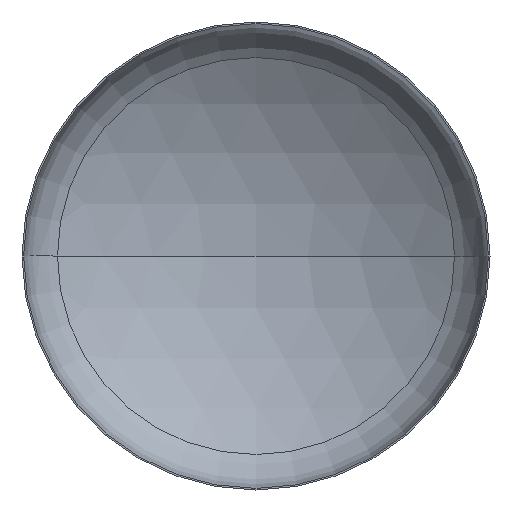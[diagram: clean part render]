
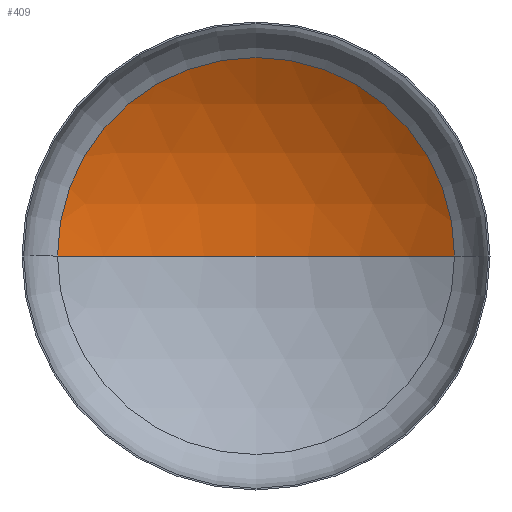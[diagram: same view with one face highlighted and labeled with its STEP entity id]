
A CAD part, front view. The second image highlights one B-rep face of the part: STEP entity #409.
In plain terms, the highlighted spherical face has radius 6000 mm.
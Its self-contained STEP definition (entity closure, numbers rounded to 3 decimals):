
#61 = ORIENTED_EDGE ( 'NONE', *, *, #150, .T. ) ;
#65 = VERTEX_POINT ( 'NONE', #273 ) ;
#71 = ORIENTED_EDGE ( 'NONE', *, *, #151, .T. ) ;
#87 = EDGE_LOOP ( 'NONE', ( #102, #71, #61 ) ) ;
#93 = VERTEX_POINT ( 'NONE', #236 ) ;
#95 = VERTEX_POINT ( 'NONE', #238 ) ;
#102 = ORIENTED_EDGE ( 'NONE', *, *, #152, .F. ) ;
#112 = AXIS2_PLACEMENT_3D ( 'NONE', #187, #188, #262 ) ;
#114 = AXIS2_PLACEMENT_3D ( 'NONE', #207, #203, #200 ) ;
#115 = AXIS2_PLACEMENT_3D ( 'NONE', #286, #285, #284 ) ;
#130 = CIRCLE ( 'NONE', #115, 3181.424 ) ;
#150 = EDGE_CURVE ( 'NONE', #93, #95, #130, .T. ) ;
#151 = EDGE_CURVE ( 'NONE', #65, #93, #386, .T. ) ;
#152 = EDGE_CURVE ( 'NONE', #65, #95, #268, .T. ) ;
#174 = AXIS2_PLACEMENT_3D ( 'NONE', #312, #269, #264 ) ;
#187 = CARTESIAN_POINT ( 'NONE',  ( 0., -4022.83, 0. ) ) ;
#188 = DIRECTION ( 'NONE',  ( 0., 0., 1. ) ) ;
#200 = DIRECTION ( 'NONE',  ( -1., 0., 0. ) ) ;
#203 = DIRECTION ( 'NONE',  ( 0., 0., -1. ) ) ;
#207 = CARTESIAN_POINT ( 'NONE',  ( 0., -4022.83, 0. ) ) ;
#236 = CARTESIAN_POINT ( 'NONE',  ( 3181.424, 1064.266, 0. ) ) ;
#238 = CARTESIAN_POINT ( 'NONE',  ( -3181.424, 1064.266, 0. ) ) ;
#262 = DIRECTION ( 'NONE',  ( 1., 0., 0. ) ) ;
#264 = DIRECTION ( 'NONE',  ( -1., 0., 0. ) ) ;
#268 = CIRCLE ( 'NONE', #112, 6000. ) ;
#269 = DIRECTION ( 'NONE',  ( 0., 0., -1. ) ) ;
#271 = SPHERICAL_SURFACE ( 'NONE', #174, 6000. ) ;
#273 = CARTESIAN_POINT ( 'NONE',  ( 0., 1977.17, 0. ) ) ;
#284 = DIRECTION ( 'NONE',  ( 1., 0., 0. ) ) ;
#285 = DIRECTION ( 'NONE',  ( 0., -1., 0. ) ) ;
#286 = CARTESIAN_POINT ( 'NONE',  ( 0., 1064.266, 0. ) ) ;
#312 = CARTESIAN_POINT ( 'NONE',  ( 0., -4022.83, 0. ) ) ;
#386 = CIRCLE ( 'NONE', #114, 6000. ) ;
#388 = FACE_OUTER_BOUND ( 'NONE', #87, .T. ) ;
#409 = ADVANCED_FACE ( 'NONE', ( #388 ), #271, .F. ) ;
